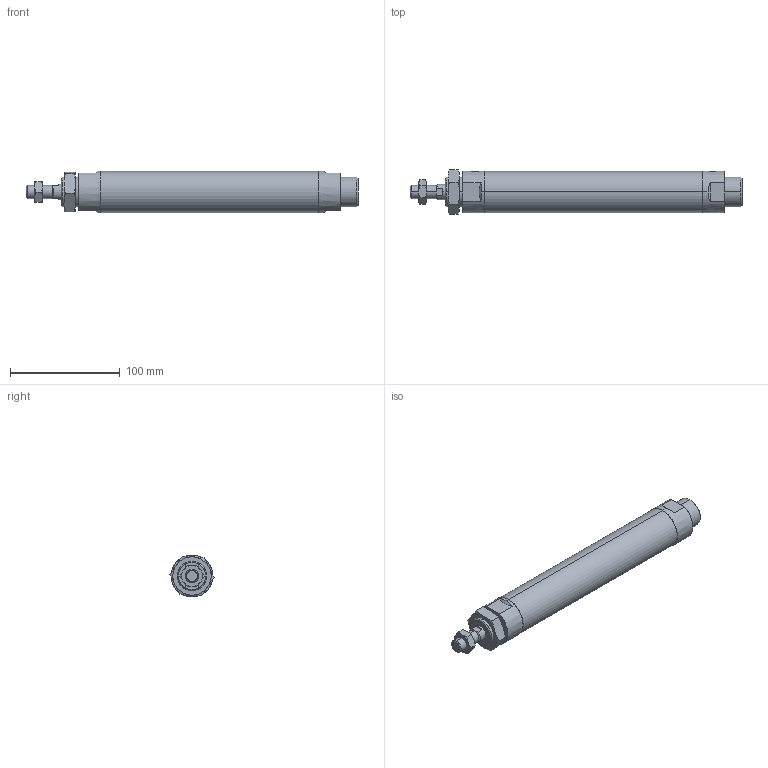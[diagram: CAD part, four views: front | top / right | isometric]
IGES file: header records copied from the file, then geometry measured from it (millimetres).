
Start section: SolidWorks IGES file using analytic representation for surfaces
Global section: file name: C:\Users\Toshiba\Desktop\J#2-32-150-N.IGS; native system: SolidWorks 2014; preprocessor: SolidWorks 2014; author: Toshiba; date: 160308.154133; units: millimetre
Bounding box: 303 x 40.33 x 38 mm (x, y, z)
Surface area: 39740.8 mm2 (no closed solid volume)
Topology: 0 solids, 0 shells, 94 faces, 1652 edges, 1648 vertices
Faces by surface type: bspline 57, revolution 37
